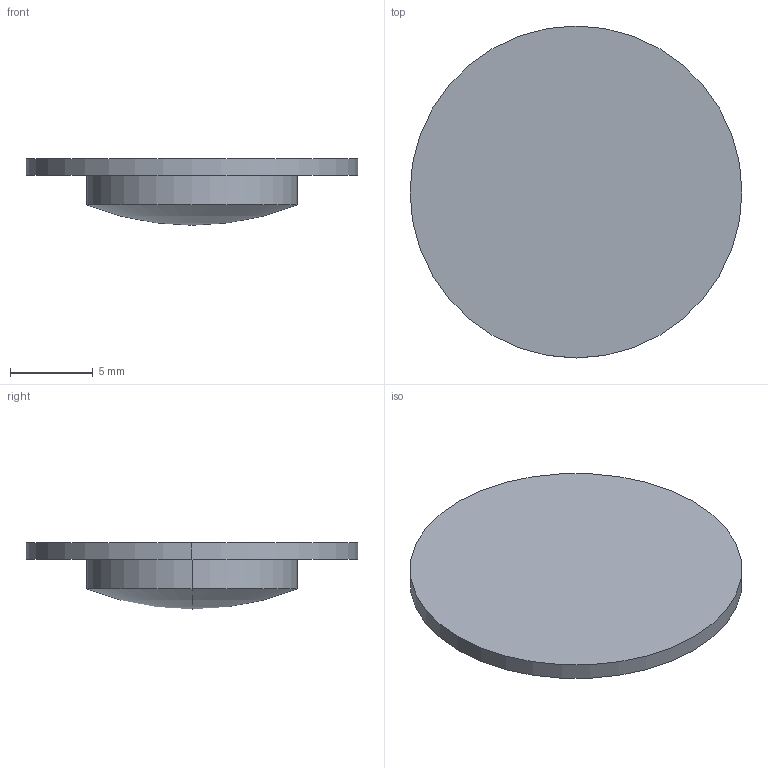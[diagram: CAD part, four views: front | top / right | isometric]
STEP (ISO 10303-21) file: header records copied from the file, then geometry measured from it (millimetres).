
FILE_DESCRIPTION(('STEP AP214'),'1');
FILE_NAME('LL-13-25.STEP','2020-03-09T17:41:07',(' '),(' '),'Spatial InterOp 3D',' ',' ');
FILE_SCHEMA(('AUTOMOTIVE_DESIGN { 1 0 10303 214 1 1 1 1 }'));
Length unit declared in the file: millimetre
Products named in the file (1): 1
Bounding box: 20 x 20 x 4 mm (x, y, z)
Volume: 617.7 mm3; surface area: 1020.1 mm2
Topology: 2 solids, 2 shells, 9 faces, 16 edges, 9 vertices
Faces by surface type: cylinder 4, plane 3, sphere 2
Entity records: 229 total; most frequent: DIRECTION 46, CARTESIAN_POINT 34, ORIENTED_EDGE 28, AXIS2_PLACEMENT_3D 21, EDGE_CURVE 14, CIRCLE 10, ADVANCED_FACE 9, FACE_OUTER_BOUND 9
